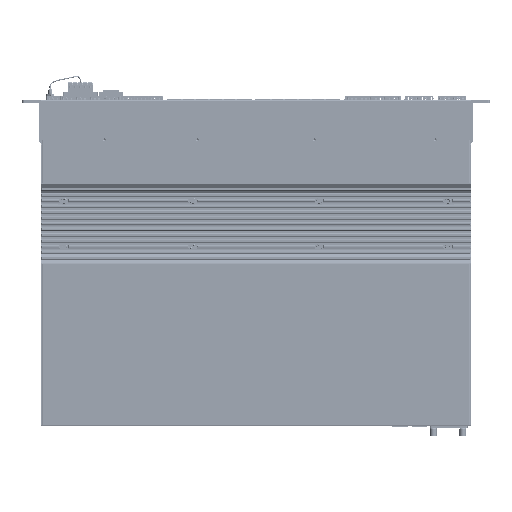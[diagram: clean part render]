
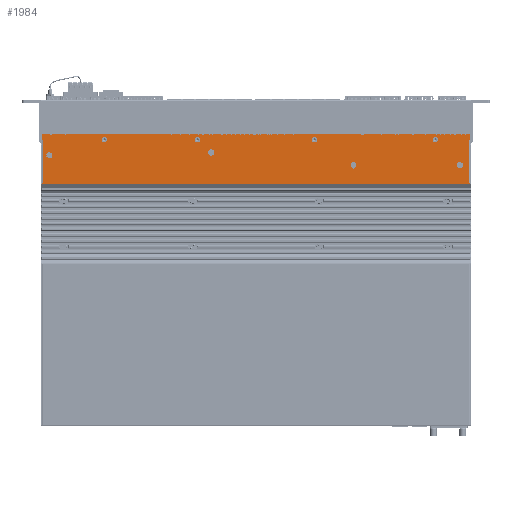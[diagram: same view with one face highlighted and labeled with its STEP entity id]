
A CAD part, front view. The second image highlights one B-rep face of the part: STEP entity #1984.
In plain terms, the highlighted planar face has unit normal (0, -1, 0).
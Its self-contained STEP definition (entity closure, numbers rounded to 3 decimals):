
#1074=CARTESIAN_POINT('',(-219.8,-21.9,-84.911));
#1075=VERTEX_POINT('',#1074);
#1083=CARTESIAN_POINT('',(-219.8,-21.9,-84.811));
#1084=VERTEX_POINT('',#1083);
#1085=CARTESIAN_POINT('',(-219.8,-21.9,-84.811));
#1086=DIRECTION('',(0.,0.,-1.));
#1087=VECTOR('',#1086,0.1);
#1088=LINE('',#1085,#1087);
#1089=EDGE_CURVE('',#1084,#1075,#1088,.T.);
#1616=CARTESIAN_POINT('',(219.8,-21.9,-84.811));
#1617=VERTEX_POINT('',#1616);
#1624=CARTESIAN_POINT('',(219.8,-21.9,-84.911));
#1625=VERTEX_POINT('',#1624);
#1626=CARTESIAN_POINT('',(219.8,-21.9,-84.911));
#1627=DIRECTION('',(-0.,-0.,1.));
#1628=VECTOR('',#1627,0.1);
#1629=LINE('',#1626,#1628);
#1630=EDGE_CURVE('',#1625,#1617,#1629,.T.);
#1727=CARTESIAN_POINT('',(219.8,-21.9,-84.911));
#1728=DIRECTION('',(-1.,0.,0.));
#1729=VECTOR('',#1728,439.6);
#1730=LINE('',#1727,#1729);
#1731=EDGE_CURVE('',#1625,#1075,#1730,.T.);
#1743=CARTESIAN_POINT('',(-218.6,-21.9,-84.811));
#1744=VERTEX_POINT('',#1743);
#1760=CARTESIAN_POINT('',(-218.6,-21.9,-84.811));
#1761=DIRECTION('',(-1.,-0.,0.));
#1762=VECTOR('',#1761,1.2);
#1763=LINE('',#1760,#1762);
#1764=EDGE_CURVE('',#1744,#1084,#1763,.T.);
#1769=CARTESIAN_POINT('',(0.,-21.9,0.));
#1770=DIRECTION('',(0.,-1.,0.));
#1771=DIRECTION('',(0.,0.,-1.));
#1772=AXIS2_PLACEMENT_3D('',#1769,#1770,#1771);
#1773=PLANE('',#1772);
#1774=CARTESIAN_POINT('',(-219.8,-21.9,-35.1));
#1775=VERTEX_POINT('',#1774);
#1776=CARTESIAN_POINT('',(-219.8,-21.9,-40.));
#1777=VERTEX_POINT('',#1776);
#1778=CARTESIAN_POINT('',(-219.8,-21.9,-35.1));
#1779=DIRECTION('',(0.,0.,-1.));
#1780=VECTOR('',#1779,4.9);
#1781=LINE('',#1778,#1780);
#1782=EDGE_CURVE('',#1775,#1777,#1781,.T.);
#1783=ORIENTED_EDGE('',*,*,#1782,.T.);
#1784=CARTESIAN_POINT('',(-218.6,-21.9,-40.));
#1785=VERTEX_POINT('',#1784);
#1786=CARTESIAN_POINT('',(-218.6,-21.9,-40.));
#1787=DIRECTION('',(-1.,0.,0.));
#1788=VECTOR('',#1787,1.2);
#1789=LINE('',#1786,#1788);
#1790=EDGE_CURVE('',#1785,#1777,#1789,.T.);
#1791=ORIENTED_EDGE('',*,*,#1790,.F.);
#1792=CARTESIAN_POINT('',(-218.6,-21.9,-84.811));
#1793=DIRECTION('',(0.,0.,1.));
#1794=VECTOR('',#1793,44.811);
#1795=LINE('',#1792,#1794);
#1796=EDGE_CURVE('',#1744,#1785,#1795,.T.);
#1797=ORIENTED_EDGE('',*,*,#1796,.F.);
#1798=ORIENTED_EDGE('',*,*,#1764,.T.);
#1799=ORIENTED_EDGE('',*,*,#1089,.T.);
#1800=ORIENTED_EDGE('',*,*,#1731,.F.);
#1801=ORIENTED_EDGE('',*,*,#1630,.T.);
#1802=CARTESIAN_POINT('',(218.6,-21.9,-84.811));
#1803=VERTEX_POINT('',#1802);
#1804=CARTESIAN_POINT('',(218.6,-21.9,-84.811));
#1805=DIRECTION('',(1.,0.,-0.));
#1806=VECTOR('',#1805,1.2);
#1807=LINE('',#1804,#1806);
#1808=EDGE_CURVE('',#1803,#1617,#1807,.T.);
#1809=ORIENTED_EDGE('',*,*,#1808,.F.);
#1810=CARTESIAN_POINT('',(218.6,-21.9,-40.));
#1811=VERTEX_POINT('',#1810);
#1812=CARTESIAN_POINT('',(218.6,-21.9,-40.));
#1813=DIRECTION('',(0.,0.,-1.));
#1814=VECTOR('',#1813,44.811);
#1815=LINE('',#1812,#1814);
#1816=EDGE_CURVE('',#1811,#1803,#1815,.T.);
#1817=ORIENTED_EDGE('',*,*,#1816,.F.);
#1818=CARTESIAN_POINT('',(219.8,-21.9,-40.));
#1819=VERTEX_POINT('',#1818);
#1820=CARTESIAN_POINT('',(218.6,-21.9,-40.));
#1821=DIRECTION('',(1.,0.,-0.));
#1822=VECTOR('',#1821,1.2);
#1823=LINE('',#1820,#1822);
#1824=EDGE_CURVE('',#1811,#1819,#1823,.T.);
#1825=ORIENTED_EDGE('',*,*,#1824,.T.);
#1826=CARTESIAN_POINT('',(219.8,-21.9,-35.1));
#1827=VERTEX_POINT('',#1826);
#1828=CARTESIAN_POINT('',(219.8,-21.9,-40.));
#1829=DIRECTION('',(-0.,-0.,1.));
#1830=VECTOR('',#1829,4.9);
#1831=LINE('',#1828,#1830);
#1832=EDGE_CURVE('',#1819,#1827,#1831,.T.);
#1833=ORIENTED_EDGE('',*,*,#1832,.T.);
#1834=CARTESIAN_POINT('',(218.8,-21.9,-34.1));
#1835=VERTEX_POINT('',#1834);
#1836=CARTESIAN_POINT('',(218.8,-21.9,-35.1));
#1837=DIRECTION('',(0.,-1.,0.));
#1838=DIRECTION('',(0.,0.,-1.));
#1839=AXIS2_PLACEMENT_3D('',#1836,#1837,#1838);
#1840=CIRCLE('',#1839,1.);
#1841=EDGE_CURVE('',#1827,#1835,#1840,.T.);
#1842=ORIENTED_EDGE('',*,*,#1841,.T.);
#1843=CARTESIAN_POINT('',(-218.8,-21.9,-34.1));
#1844=VERTEX_POINT('',#1843);
#1845=CARTESIAN_POINT('',(-218.8,-21.9,-34.1));
#1846=DIRECTION('',(1.,0.,-0.));
#1847=VECTOR('',#1846,437.6);
#1848=LINE('',#1845,#1847);
#1849=EDGE_CURVE('',#1844,#1835,#1848,.T.);
#1850=ORIENTED_EDGE('',*,*,#1849,.F.);
#1851=CARTESIAN_POINT('',(-218.8,-21.9,-35.1));
#1852=DIRECTION('',(0.,-1.,0.));
#1853=DIRECTION('',(0.,0.,-1.));
#1854=AXIS2_PLACEMENT_3D('',#1851,#1852,#1853);
#1855=CIRCLE('',#1854,1.);
#1856=EDGE_CURVE('',#1844,#1775,#1855,.T.);
#1857=ORIENTED_EDGE('',*,*,#1856,.T.);
#1858=EDGE_LOOP('',(#1783,#1791,#1797,#1798,#1799,#1800,#1801,#1809,#1817,#1825,#1833,#1842,#1850,#1857));
#1859=FACE_BOUND('',#1858,.T.);
#1860=CARTESIAN_POINT('',(60.,-21.9,-42.75));
#1861=VERTEX_POINT('',#1860);
#1862=CARTESIAN_POINT('',(60.,-21.9,-40.));
#1863=DIRECTION('',(-0.,1.,-0.));
#1864=DIRECTION('',(0.,0.,-1.));
#1865=AXIS2_PLACEMENT_3D('',#1862,#1863,#1864);
#1866=CIRCLE('',#1865,2.75);
#1867=EDGE_CURVE('',#1861,#1861,#1866,.T.);
#1868=ORIENTED_EDGE('',*,*,#1867,.T.);
#1869=EDGE_LOOP('',(#1868));
#1870=FACE_BOUND('',#1869,.T.);
#1871=CARTESIAN_POINT('',(-60.,-21.9,-42.75));
#1872=VERTEX_POINT('',#1871);
#1873=CARTESIAN_POINT('',(-60.,-21.9,-40.));
#1874=DIRECTION('',(-0.,1.,-0.));
#1875=DIRECTION('',(0.,0.,-1.));
#1876=AXIS2_PLACEMENT_3D('',#1873,#1874,#1875);
#1877=CIRCLE('',#1876,2.75);
#1878=EDGE_CURVE('',#1872,#1872,#1877,.T.);
#1879=ORIENTED_EDGE('',*,*,#1878,.T.);
#1880=EDGE_LOOP('',(#1879));
#1881=FACE_BOUND('',#1880,.T.);
#1882=CARTESIAN_POINT('',(-155.5,-21.9,-42.75));
#1883=VERTEX_POINT('',#1882);
#1884=CARTESIAN_POINT('',(-155.5,-21.9,-40.));
#1885=DIRECTION('',(-0.,1.,-0.));
#1886=DIRECTION('',(0.,0.,-1.));
#1887=AXIS2_PLACEMENT_3D('',#1884,#1885,#1886);
#1888=CIRCLE('',#1887,2.75);
#1889=EDGE_CURVE('',#1883,#1883,#1888,.T.);
#1890=ORIENTED_EDGE('',*,*,#1889,.T.);
#1891=EDGE_LOOP('',(#1890));
#1892=FACE_BOUND('',#1891,.T.);
#1893=CARTESIAN_POINT('',(-212.,-21.9,-53.3));
#1894=VERTEX_POINT('',#1893);
#1895=CARTESIAN_POINT('',(-209.3,-21.9,-56.));
#1896=VERTEX_POINT('',#1895);
#1897=CARTESIAN_POINT('',(-212.,-21.9,-56.));
#1898=DIRECTION('',(0.,1.,0.));
#1899=DIRECTION('',(0.,-0.,1.));
#1900=AXIS2_PLACEMENT_3D('',#1897,#1898,#1899);
#1901=CIRCLE('',#1900,2.7);
#1902=EDGE_CURVE('',#1894,#1896,#1901,.T.);
#1903=ORIENTED_EDGE('',*,*,#1902,.T.);
#1904=CARTESIAN_POINT('',(-212.,-21.9,-56.));
#1905=DIRECTION('',(0.,1.,0.));
#1906=DIRECTION('',(0.,-0.,1.));
#1907=AXIS2_PLACEMENT_3D('',#1904,#1905,#1906);
#1908=CIRCLE('',#1907,2.7);
#1909=EDGE_CURVE('',#1896,#1894,#1908,.T.);
#1910=ORIENTED_EDGE('',*,*,#1909,.T.);
#1911=EDGE_LOOP('',(#1903,#1910));
#1912=FACE_BOUND('',#1911,.T.);
#1913=CARTESIAN_POINT('',(209.,-21.9,-63.3));
#1914=VERTEX_POINT('',#1913);
#1915=CARTESIAN_POINT('',(211.7,-21.9,-66.));
#1916=VERTEX_POINT('',#1915);
#1917=CARTESIAN_POINT('',(209.,-21.9,-66.));
#1918=DIRECTION('',(0.,1.,0.));
#1919=DIRECTION('',(0.,-0.,1.));
#1920=AXIS2_PLACEMENT_3D('',#1917,#1918,#1919);
#1921=CIRCLE('',#1920,2.7);
#1922=EDGE_CURVE('',#1914,#1916,#1921,.T.);
#1923=ORIENTED_EDGE('',*,*,#1922,.T.);
#1924=CARTESIAN_POINT('',(209.,-21.9,-66.));
#1925=DIRECTION('',(0.,1.,0.));
#1926=DIRECTION('',(0.,-0.,1.));
#1927=AXIS2_PLACEMENT_3D('',#1924,#1925,#1926);
#1928=CIRCLE('',#1927,2.7);
#1929=EDGE_CURVE('',#1916,#1914,#1928,.T.);
#1930=ORIENTED_EDGE('',*,*,#1929,.T.);
#1931=EDGE_LOOP('',(#1923,#1930));
#1932=FACE_BOUND('',#1931,.T.);
#1933=CARTESIAN_POINT('',(100.,-21.9,-63.3));
#1934=VERTEX_POINT('',#1933);
#1935=CARTESIAN_POINT('',(102.7,-21.9,-66.));
#1936=VERTEX_POINT('',#1935);
#1937=CARTESIAN_POINT('',(100.,-21.9,-66.));
#1938=DIRECTION('',(0.,1.,0.));
#1939=DIRECTION('',(0.,-0.,1.));
#1940=AXIS2_PLACEMENT_3D('',#1937,#1938,#1939);
#1941=CIRCLE('',#1940,2.7);
#1942=EDGE_CURVE('',#1934,#1936,#1941,.T.);
#1943=ORIENTED_EDGE('',*,*,#1942,.T.);
#1944=CARTESIAN_POINT('',(100.,-21.9,-66.));
#1945=DIRECTION('',(0.,1.,0.));
#1946=DIRECTION('',(0.,-0.,1.));
#1947=AXIS2_PLACEMENT_3D('',#1944,#1945,#1946);
#1948=CIRCLE('',#1947,2.7);
#1949=EDGE_CURVE('',#1936,#1934,#1948,.T.);
#1950=ORIENTED_EDGE('',*,*,#1949,.T.);
#1951=EDGE_LOOP('',(#1943,#1950));
#1952=FACE_BOUND('',#1951,.T.);
#1953=CARTESIAN_POINT('',(-46.,-21.9,-50.3));
#1954=VERTEX_POINT('',#1953);
#1955=CARTESIAN_POINT('',(-43.3,-21.9,-53.));
#1956=VERTEX_POINT('',#1955);
#1957=CARTESIAN_POINT('',(-46.,-21.9,-53.));
#1958=DIRECTION('',(0.,1.,0.));
#1959=DIRECTION('',(0.,-0.,1.));
#1960=AXIS2_PLACEMENT_3D('',#1957,#1958,#1959);
#1961=CIRCLE('',#1960,2.7);
#1962=EDGE_CURVE('',#1954,#1956,#1961,.T.);
#1963=ORIENTED_EDGE('',*,*,#1962,.T.);
#1964=CARTESIAN_POINT('',(-46.,-21.9,-53.));
#1965=DIRECTION('',(0.,1.,0.));
#1966=DIRECTION('',(0.,-0.,1.));
#1967=AXIS2_PLACEMENT_3D('',#1964,#1965,#1966);
#1968=CIRCLE('',#1967,2.7);
#1969=EDGE_CURVE('',#1956,#1954,#1968,.T.);
#1970=ORIENTED_EDGE('',*,*,#1969,.T.);
#1971=EDGE_LOOP('',(#1963,#1970));
#1972=FACE_BOUND('',#1971,.T.);
#1973=CARTESIAN_POINT('',(184.,-21.9,-42.75));
#1974=VERTEX_POINT('',#1973);
#1975=CARTESIAN_POINT('',(184.,-21.9,-40.));
#1976=DIRECTION('',(-0.,1.,-0.));
#1977=DIRECTION('',(0.,0.,-1.));
#1978=AXIS2_PLACEMENT_3D('',#1975,#1976,#1977);
#1979=CIRCLE('',#1978,2.75);
#1980=EDGE_CURVE('',#1974,#1974,#1979,.T.);
#1981=ORIENTED_EDGE('',*,*,#1980,.T.);
#1982=EDGE_LOOP('',(#1981));
#1983=FACE_BOUND('',#1982,.T.);
#1984=ADVANCED_FACE('',(#1859,#1870,#1881,#1892,#1912,#1932,#1952,#1972,#1983),#1773,.T.);
